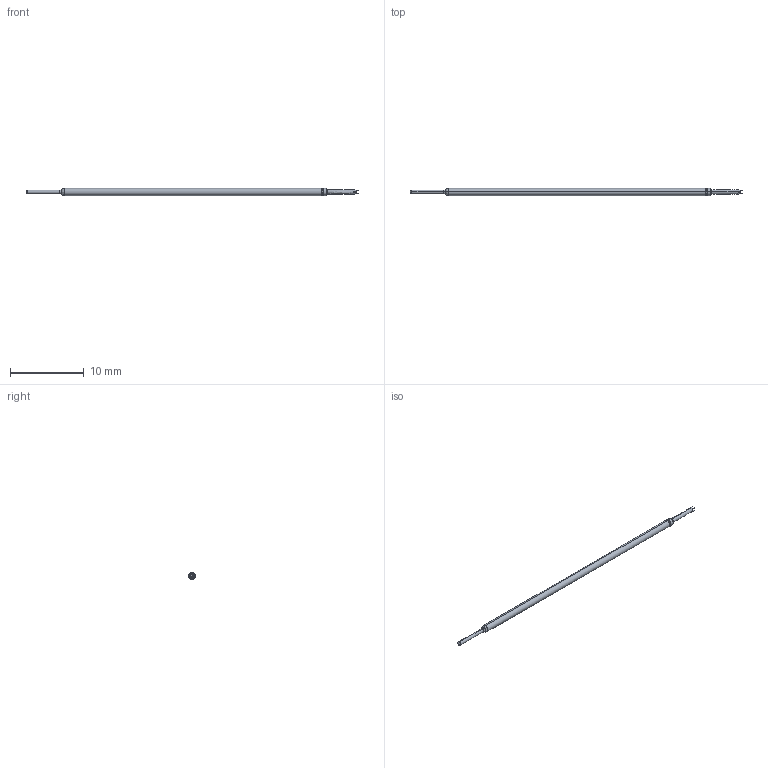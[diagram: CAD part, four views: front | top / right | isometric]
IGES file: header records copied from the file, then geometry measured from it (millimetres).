
Start section: SolidWorks IGES file using analytic representation for surfaces
Global section: file name: C:\Documents and Settings\mrumschlag\Desktop\changes\new\test\L24 RECD.IGS; native system: SolidWorks 2011; preprocessor: SolidWorks 2011; author: mrumschlag; date: 110630.163412; units: inch
Bounding box: 45.03 x 0.97 x 0.97 mm (x, y, z)
Surface area: 125.2 mm2 (no closed solid volume)
Topology: 0 solids, 0 shells, 35 faces, 202 edges, 200 vertices
Faces by surface type: bspline 21, revolution 14
